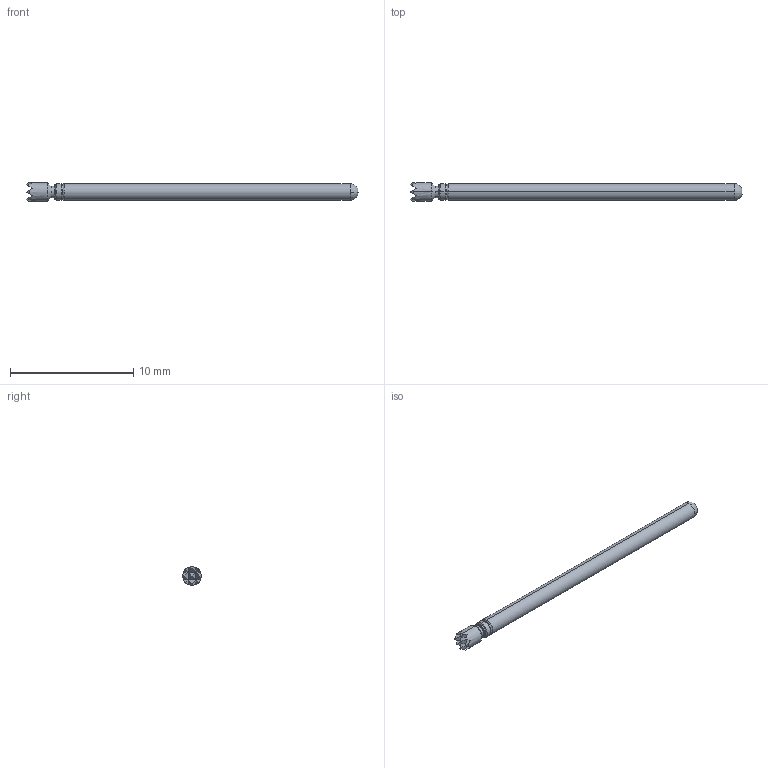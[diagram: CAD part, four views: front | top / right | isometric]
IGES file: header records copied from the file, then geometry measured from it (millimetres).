
Start section: SolidWorks IGES file using analytic representation for surfaces
Global section: file name: Z:\probe solid model mockups\Solidworks models\LTP-25\LTP-25H Full.IGS; native system: SolidWorks 2006 by SolidWorks Corporation; preprocessor: SolidWorks 2006 by SolidWorks Corporation; author: tsakatani; date: 071214.143056; units: inch
Bounding box: 26.92 x 1.52 x 1.52 mm (x, y, z)
Surface area: 119.9 mm2 (no closed solid volume)
Topology: 0 solids, 0 shells, 50 faces, 248 edges, 248 vertices
Faces by surface type: bspline 34, revolution 16
